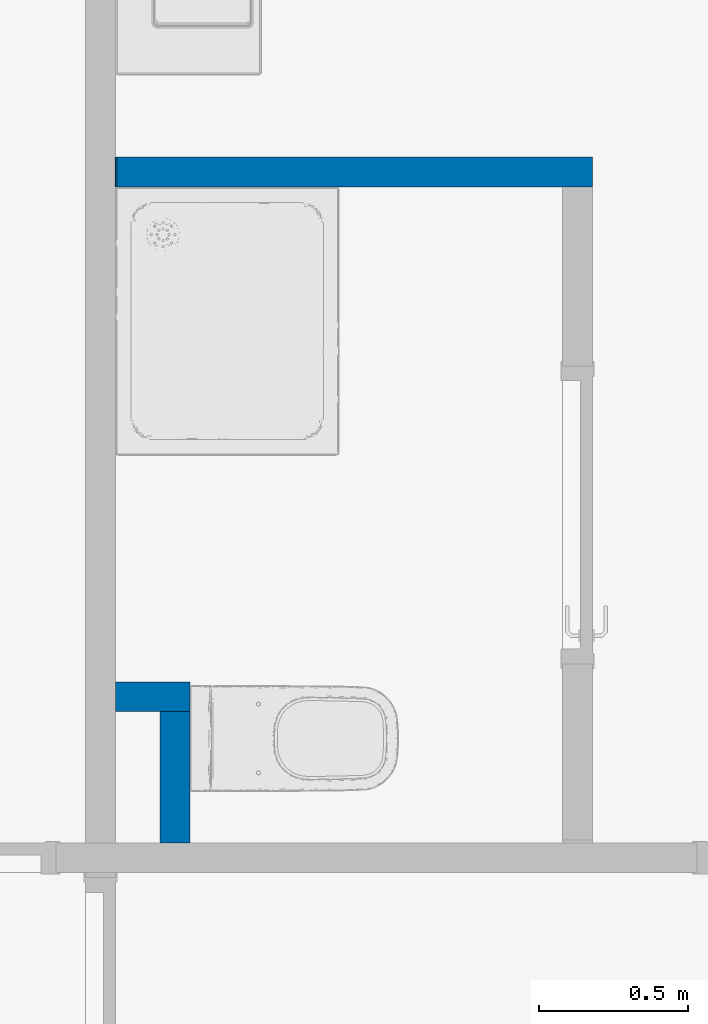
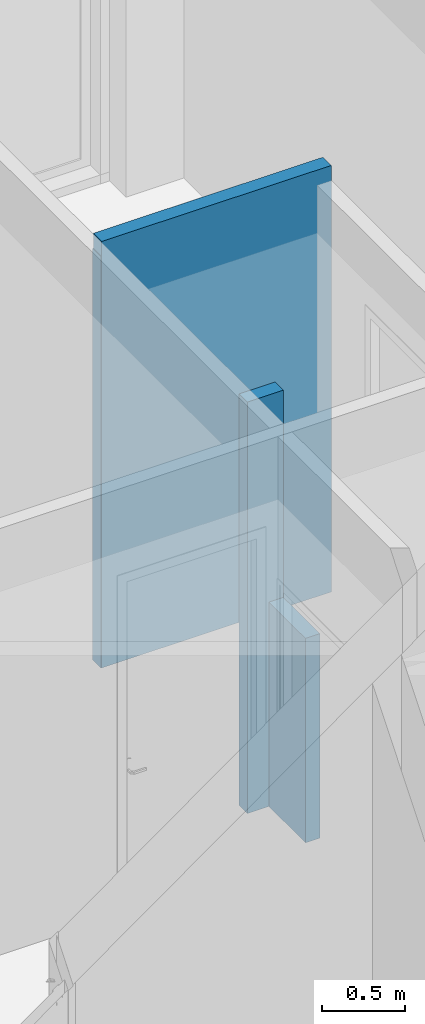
# One storey, part 109 of 240: 4 walls.
"""IFC2X3 building model written with IfcOpenShell, lengths in centimetres."""

from ifc_helpers import new_model, entity, si_unit, converted_unit, derived_unit, direction, frame, frame_2d, origin, place, context, subcontext, project, spatial, polyline, rectangle, extrude, clip, bounded_halfspace, material, layer, layer_set, layer_usage, type_object, element, save


model = new_model("IFC2X3")

# Units and contexts
model_context = context("Model", 3, precision=0.001, world=origin(), true_north=direction((6.12303176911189e-17, 1.0)))
body_context = subcontext(model_context, "Body", "Model", "MODEL_VIEW")
ifc_project = project(units=[si_unit("LENGTHUNIT", "METRE", prefix="CENTI"), si_unit("AREAUNIT", "SQUARE_METRE"), si_unit("VOLUMEUNIT", "CUBIC_METRE"), converted_unit("PLANEANGLEUNIT", "DEGREE", entity("IfcRatioMeasure", 0.0174532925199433), si_unit("PLANEANGLEUNIT", "RADIAN"), dimensions=[0, 0, 0, 0, 0, 0, 0]), si_unit("MASSUNIT", "GRAM", prefix="KILO"), derived_unit("MASSDENSITYUNIT", [(si_unit("MASSUNIT", "GRAM", prefix="KILO"), 1), (si_unit("LENGTHUNIT", "METRE"), -3)]), si_unit("TIMEUNIT", "SECOND"), si_unit("FREQUENCYUNIT", "HERTZ"), si_unit("THERMODYNAMICTEMPERATUREUNIT", "DEGREE_CELSIUS"), derived_unit("THERMALTRANSMITTANCEUNIT", [(si_unit("MASSUNIT", "GRAM", prefix="KILO"), 1), (si_unit("THERMODYNAMICTEMPERATUREUNIT", "KELVIN"), -1), (si_unit("TIMEUNIT", "SECOND"), -3)]), derived_unit("VOLUMETRICFLOWRATEUNIT", [(si_unit("LENGTHUNIT", "METRE"), 3), (si_unit("TIMEUNIT", "SECOND"), -1)]), si_unit("ELECTRICCURRENTUNIT", "AMPERE"), si_unit("ELECTRICVOLTAGEUNIT", "VOLT"), si_unit("POWERUNIT", "WATT"), si_unit("FORCEUNIT", "NEWTON", prefix="KILO"), si_unit("ILLUMINANCEUNIT", "LUX"), si_unit("LUMINOUSFLUXUNIT", "LUMEN"), si_unit("LUMINOUSINTENSITYUNIT", "CANDELA"), derived_unit("USERDEFINED", [(si_unit("MASSUNIT", "GRAM", prefix="KILO"), -1), (si_unit("LENGTHUNIT", "METRE"), -2), (si_unit("TIMEUNIT", "SECOND"), 3), (si_unit("LUMINOUSFLUXUNIT", "LUMEN"), 1)]), derived_unit("LINEARVELOCITYUNIT", [(si_unit("LENGTHUNIT", "METRE"), 1), (si_unit("TIMEUNIT", "SECOND"), -1)]), si_unit("PRESSUREUNIT", "PASCAL"), derived_unit("USERDEFINED", [(si_unit("LENGTHUNIT", "METRE"), -2), (si_unit("MASSUNIT", "GRAM", prefix="KILO"), 1), (si_unit("TIMEUNIT", "SECOND"), -2)])], contexts=[model_context])

# Site, building, storey
site_placement = place(None, frame((-2781.94577612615, 7442.24238424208, 0.0)))
site = spatial("IfcSite", under=ifc_project, at=site_placement, Name="Default", CompositionType="ELEMENT")
building_placement = place(site_placement, origin())
building = spatial("IfcBuilding", under=site, at=building_placement, CompositionType="ELEMENT")
storey_placement = place(building_placement, origin())
storey = spatial("IfcBuildingStorey", under=building, at=storey_placement, Name="N00 - COO", CompositionType="ELEMENT", Elevation=0.0)

# Walls
ifc_material_1 = material(Name="01 - Enduit/Plâtre")
ifc_layer_1 = layer(ifc_material_1, 1.3)
ifc_material_2 = material(Name="00 - Isolant")
ifc_layer_2 = layer(ifc_material_2, 7.4)
ifc_layer_3 = layer(ifc_material_1, 1.3)
ifc_layer_set = layer_set([ifc_layer_1, ifc_layer_2, ifc_layer_3], Name="Mur de base:06 - cloisons - Ba13 10cm")
ifc_layer_usage_1 = layer_usage(ifc_layer_set, "AXIS2", "NEGATIVE", 5.0)
wall_type = type_object("IfcWallType", Name="Mur de base:06 - cloisons - Ba13 10cm", PredefinedType="STANDARD", material=ifc_layer_set)
wall_1_placement = place(building_placement, frame((-9654.49987766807, -1525.0, 0.0)))
element("IfcWallStandardCase", 1, at=wall_1_placement, inside=storey, type_object=wall_type, material=ifc_layer_usage_1, Name="Mur de base:06 - cloisons - Ba13 10cm", ObjectType="Mur de base:06 - cloisons - Ba13 10cm", context=body_context, shape_type="SweptSolid", body=[
    extrude(rectangle(XDim=0.499999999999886, YDim=9.99999999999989, at=frame_2d((0.249999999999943, 8.88178419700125e-16), x_axis=(-1.0, 0.0))), origin(), (0.0, 0.0, 1.0), 302.0),
])
ifc_layer_usage_2 = layer_usage(ifc_layer_set, "AXIS2", "NEGATIVE", 5.0)
wall_2_placement = place(building_placement, frame((-9654.49987766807, -1701.0, 0.0)))
element("IfcWallStandardCase", 2, at=wall_2_placement, inside=storey, type_object=wall_type, material=ifc_layer_usage_2, Name="Mur de base:06 - cloisons - Ba13 10cm", ObjectType="Mur de base:06 - cloisons - Ba13 10cm", context=body_context, shape_type="SweptSolid", body=[
    extrude(rectangle(XDim=24.9999999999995, YDim=9.99999999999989, at=frame_2d((12.4999999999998, 6.79456491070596e-14), x_axis=(-1.0, 0.0))), origin(), (0.0, 0.0, 1.0), 302.0),
])
ifc_layer_usage_3 = layer_usage(ifc_layer_set, "AXIS2", "NEGATIVE", 5.0)
wall_3_placement = place(building_placement, frame((-9634.49987766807, -1706.0, 0.0), z_axis=(0.0, 0.0, 1.0), x_axis=(0.0, -1.0, 0.0)))
element("IfcWallStandardCase", 3, at=wall_3_placement, inside=storey, type_object=wall_type, material=ifc_layer_usage_3, Name="Mur de base:06 - cloisons - Ba13 10cm", ObjectType="Mur de base:06 - cloisons - Ba13 10cm", context=body_context, shape_type="SweptSolid", body=[
    extrude(rectangle(XDim=43.9999999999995, YDim=10.0000000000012, at=frame_2d((21.9999999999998, 0.0), x_axis=(-1.0, 0.0))), origin(), (0.0, 0.0, 1.0), 150.0),
])
ifc_layer_usage_4 = layer_usage(ifc_layer_set, "AXIS2", "NEGATIVE", 5.0)
wall_4_placement = place(building_placement, frame((-9653.99987766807, -1525.0, 0.0)))
element("IfcWallStandardCase", 4, at=wall_4_placement, inside=storey, type_object=wall_type, material=ifc_layer_usage_4, Name="Mur de base:06 - cloisons - Ba13 10cm", ObjectType="Mur de base:06 - cloisons - Ba13 10cm", context=body_context, shape_type="Clipping", body=[
    clip(extrude(rectangle(XDim=159.5, YDim=9.99999999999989, at=frame_2d((79.7500000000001, 4.08562073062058e-14), x_axis=(-1.0, 0.0))), origin(), (0.0, 0.0, 1.0), 313.0), bounded_halfspace(frame((0.0, -5.0, 313.0)), False, frame((0.0, -5.0, 313.0)), polyline([(0.0, 0.0), (159.5, 0.0), (159.5, 10.0), (0.0, 10.0), (0.0, 0.0)]))),
])

save(model, "model.ifc")
